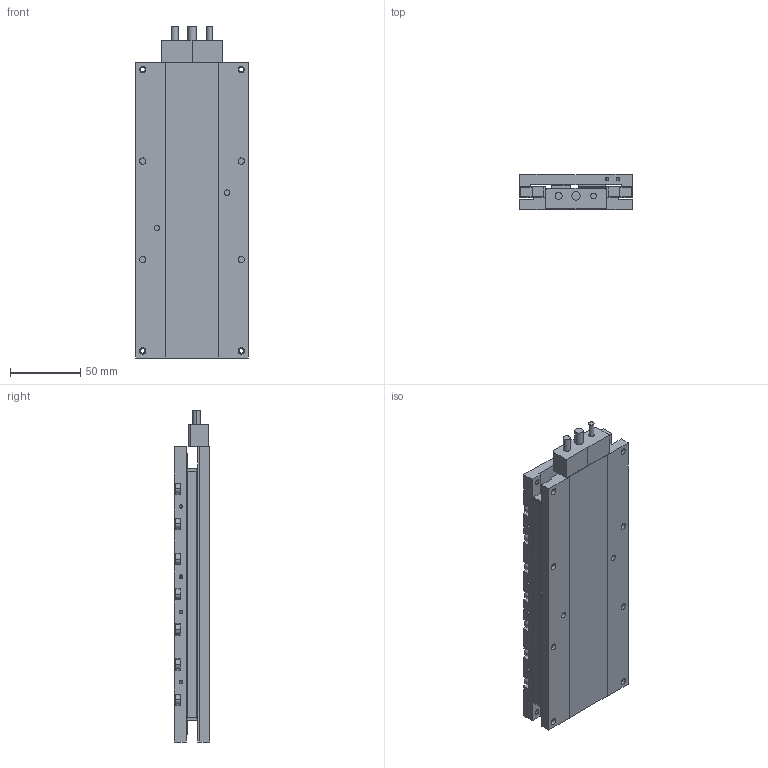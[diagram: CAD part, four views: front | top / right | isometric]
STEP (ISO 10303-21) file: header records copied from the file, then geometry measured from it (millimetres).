
FILE_DESCRIPTION((''),'2;1');
FILE_NAME('MX80L-T04_ASM','2008-06-23T',('FK20128'),(''),'PRO/ENGINEER BY PARAMETRIC TECHNOLOGY CORPORATION, 2006200','PRO/ENGINEER BY PARAMETRIC TECHNOLOGY CORPORATION, 2006200','');
FILE_SCHEMA(('CONFIG_CONTROL_DESIGN'));
Length unit declared in the file: millimetre
Products named in the file (4): MX80L-BASE-150MM; MX80L-TOP-150MM; CABLE-ASSEMBLY-MX80L-T03-T04; MX80L-T04_ASM
Assembly tree (3 placements, depth 2):
  MX80L-T04_ASM
    MX80L-BASE-150MM
    MX80L-TOP-150MM
    CABLE-ASSEMBLY-MX80L-T03-T04
Bounding box: 80 x 25 x 236 mm (x, y, z)
Volume: 310448.8 mm3; surface area: 107151.7 mm2
Topology: 3 solids, 33 shells, 512 faces, 1334 edges, 850 vertices
Faces by surface type: plane 246, cylinder 214, cone 52
Entity records: 15712 total; most frequent: DIRECTION 2846, CARTESIAN_POINT 2683, ORIENTED_EDGE 2500, EDGE_CURVE 1310, AXIS2_PLACEMENT_3D 1013, VERTEX_POINT 850, VECTOR 820, LINE 820
